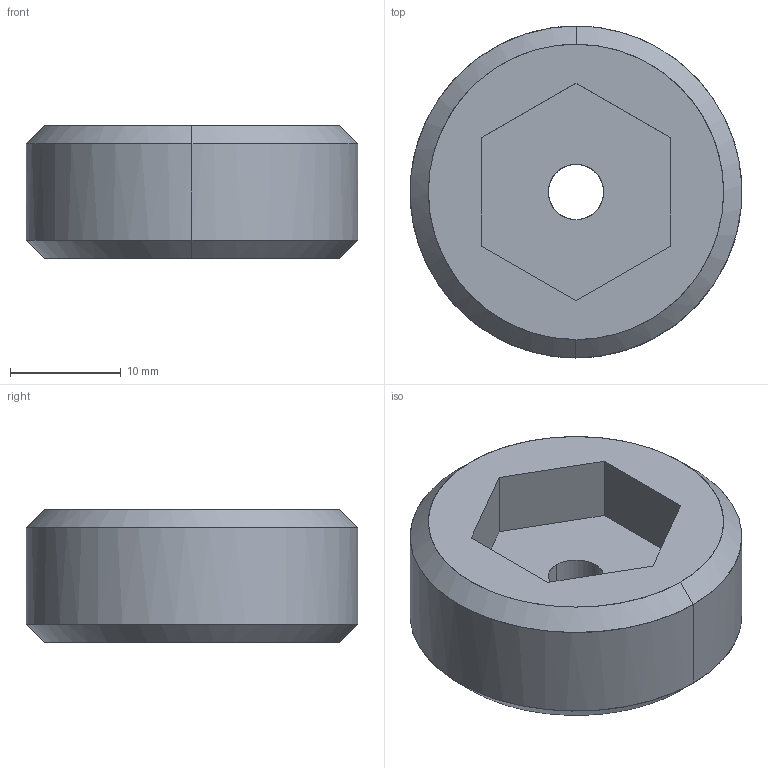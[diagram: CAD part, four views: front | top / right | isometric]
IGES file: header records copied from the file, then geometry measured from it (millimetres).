
Global section: file name: E:\UnigraphicsGraphicData\MISUMI_PRESS-PARTS\IGES\3d_mswh30_00467_r00.igs; native system: NX V5.0; preprocessor: UGS NX IGES V5.0; author: MISUMI; date: 20110105.161524; units: millimetre
Bounding box: 29.97 x 30 x 12 mm (x, y, z)
Surface area: 2763.8 mm2 (no closed solid volume)
Topology: 0 solids, 0 shells, 17 faces, 116 edges, 116 vertices
Faces by surface type: bspline 17
